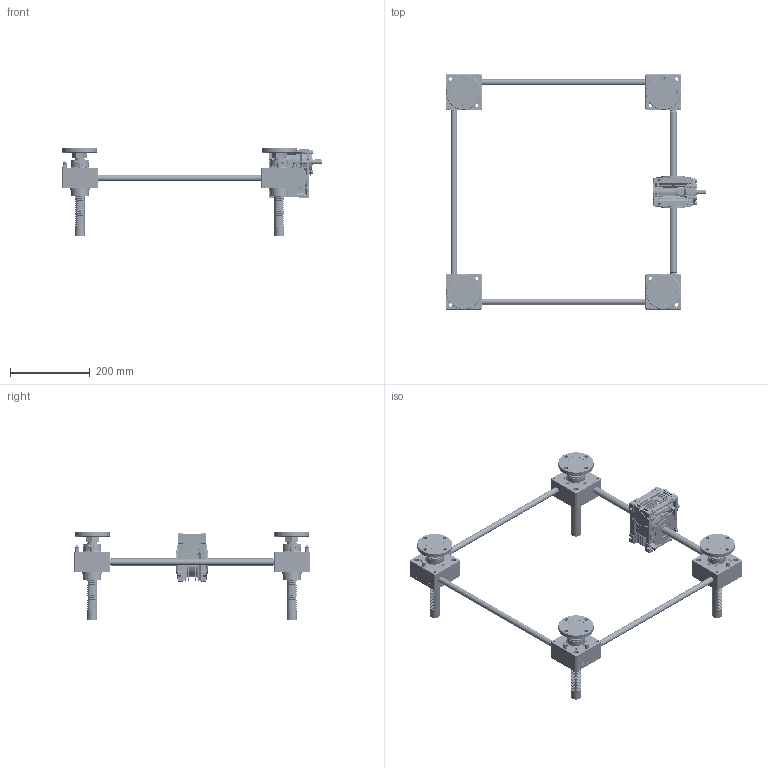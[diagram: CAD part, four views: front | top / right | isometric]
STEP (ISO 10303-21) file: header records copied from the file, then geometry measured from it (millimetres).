
FILE_DESCRIPTION(('STEP AP203'),'1');
FILE_NAME('SPH500F-500x500-250-100ST-040.stp','2016-08-05T06:38:25',(' '),(' '),'Spatial InterOp 3D',' ',' ');
FILE_SCHEMA(('CONFIG_CONTROL_DESIGN'));
Length unit declared in the file: millimetre
Products named in the file (125): SPH500F-500x500-250-100ST-040; Rack Gear(SP-500F); Flange.1-Part; Flange.1; Joint.1; Nut.1; Flange.2-Part; Flange.2; Joint.2; Nut.2; Flange.3-Part; Flange.3; Joint.3; Nut.3; Flange.4-Part; Flange.4; Joint.4; Nut.4; Body.1-Part; Bolt.20; Nipple; Gear Box.1(Upper); Gear Box.1(Lower); LowerGearBox.1; RJ05-4SCJ-610X600-100ST_CAP; LABEL-B.1; ___; 파트18; __; Body.2-Part; Gear Box.2(Upper); Gear Box.2(Lower); Symmetry of LowerGearBox.1.1; Body.3-Part; Gear Box.3(Upper); Gear Box.3(Lower); Symmetry of Symmetry of LowerGearBox.1.2.1; Body.4-Part; Gear Box.4(Upper); Gear Box.4(Lower)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
Assembly tree (128 placements, depth 6):
  SPH500F-500x500-250-100ST-040
    Rack Gear(SP-500F)  x4
    Flange.1-Part
      Flange.1
      Joint.1
      Nut.1
    Flange.2-Part
      Flange.2
      Joint.2
      Nut.2
    Flange.3-Part
      Flange.3
      Joint.3
      Nut.3
    Flange.4-Part
      Flange.4
      Joint.4
      Nut.4
    Body.1-Part
      Bolt.20
      Bolt.20
      Bolt.20
      Bolt.20
      Bolt.20
      Nipple
      Nipple
      Gear Box.1(Upper)
      Gear Box.1(Lower)
        LowerGearBox.1
      __
        ___
          RJ05-4SCJ-610X600-100ST_CAP
            LABEL-B.1
          파트18
    Body.2-Part
      Bolt.20
      Bolt.20
      Bolt.20
      Bolt.20
      Bolt.20
      Nipple
      Nipple
      Gear Box.2(Upper)
      Gear Box.2(Lower)
        Symmetry of LowerGearBox.1.1
      __
        ___
          RJ05-4SCJ-610X600-100ST_CAP
            LABEL-B.1
          파트18
    Body.3-Part
      Bolt.20
      Bolt.20
      Bolt.20
      Bolt.20
      Bolt.20
      Nipple
      Nipple
      Gear Box.3(Upper)
      Gear Box.3(Lower)
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Bounding box: 652.72 x 590.44 x 220 mm (x, y, z)
Volume: 2153032 mm3; surface area: 816564.4 mm2
Topology: 90 solids, 866 shells, 9957 faces, 30182 edges, 21433 vertices
Faces by surface type: plane 8595, cylinder 796, cone 218, revolution 172, extrusion 152, bspline 20, sphere 4
Full cylindrical faces by diameter (mm): 4.8 x8, 6 x48, 7 x20, 9 x16, 9.5 x16, 9.886 x8, 10.5 x40, 11 x1, 13.5 x8, 15 x5, 17 x1, 18 x1, 23 x4, 25 x12, 26 x8, 27 x4, 28 x9, 28.3 x8, 29.5 x8, 30 x1, 37 x4, 38 x4, 42.5 x4, 44 x4, 45 x16, 50 x4, 88 x4
Entity records: 331597 total; most frequent: CARTESIAN_POINT 73720, ORIENTED_EDGE 51829, DIRECTION 47558, EDGE_CURVE 28058, VECTOR 24396, LINE 24244, VERTEX_POINT 20297, AXIS2_PLACEMENT_3D 11495
